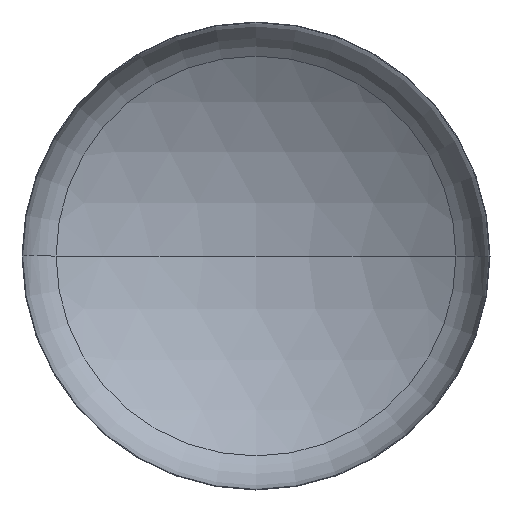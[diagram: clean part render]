
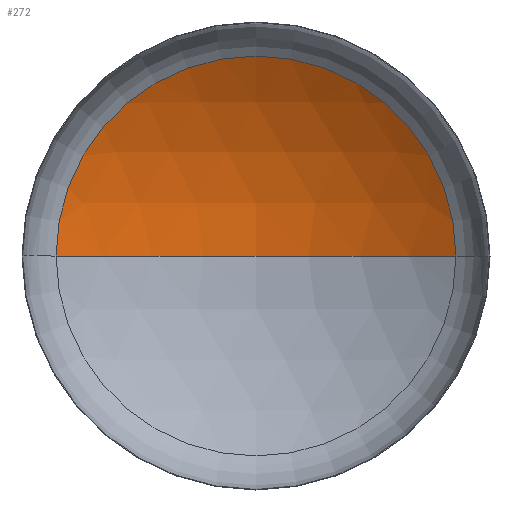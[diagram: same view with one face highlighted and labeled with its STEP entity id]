
A CAD part, front view. The second image highlights one B-rep face of the part: STEP entity #272.
In plain terms, the highlighted spherical face has radius 6400 mm.
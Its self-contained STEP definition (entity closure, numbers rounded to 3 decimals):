
#6 = ORIENTED_EDGE ( 'NONE', *, *, #390, .T. ) ;
#9 = EDGE_CURVE ( 'NONE', #331, #54, #66, .T. ) ;
#14 = ORIENTED_EDGE ( 'NONE', *, *, #325, .T. ) ;
#22 = DIRECTION ( 'NONE',  ( 0., 0., -1. ) ) ;
#37 = DIRECTION ( 'NONE',  ( -1., 0., 0. ) ) ;
#41 = EDGE_LOOP ( 'NONE', ( #55, #14, #6 ) ) ;
#54 = VERTEX_POINT ( 'NONE', #204 ) ;
#55 = ORIENTED_EDGE ( 'NONE', *, *, #9, .F. ) ;
#66 = CIRCLE ( 'NONE', #350, 6400. ) ;
#75 = CIRCLE ( 'NONE', #233, 3417.872 ) ;
#82 = AXIS2_PLACEMENT_3D ( 'NONE', #124, #366, #142 ) ;
#85 = DIRECTION ( 'NONE',  ( 0., -1., 0. ) ) ;
#97 = CIRCLE ( 'NONE', #82, 6400. ) ;
#117 = SPHERICAL_SURFACE ( 'NONE', #343, 6400. ) ;
#124 = CARTESIAN_POINT ( 'NONE',  ( 0., -4341.016, 0. ) ) ;
#125 = VERTEX_POINT ( 'NONE', #143 ) ;
#142 = DIRECTION ( 'NONE',  ( -1., 0., 0. ) ) ;
#143 = CARTESIAN_POINT ( 'NONE',  ( 3417.872, 1069.913, 0. ) ) ;
#184 = DIRECTION ( 'NONE',  ( 1., 0., 0. ) ) ;
#204 = CARTESIAN_POINT ( 'NONE',  ( -3417.872, 1069.913, 0. ) ) ;
#206 = FACE_OUTER_BOUND ( 'NONE', #41, .T. ) ;
#210 = CARTESIAN_POINT ( 'NONE',  ( 0., -4341.016, 0. ) ) ;
#222 = DIRECTION ( 'NONE',  ( 1., 0., 0. ) ) ;
#226 = DIRECTION ( 'NONE',  ( 0., 0., 1. ) ) ;
#233 = AXIS2_PLACEMENT_3D ( 'NONE', #267, #85, #184 ) ;
#267 = CARTESIAN_POINT ( 'NONE',  ( 0., 1069.913, 0. ) ) ;
#272 = ADVANCED_FACE ( 'NONE', ( #206 ), #117, .F. ) ;
#325 = EDGE_CURVE ( 'NONE', #331, #125, #97, .T. ) ;
#331 = VERTEX_POINT ( 'NONE', #411 ) ;
#343 = AXIS2_PLACEMENT_3D ( 'NONE', #210, #22, #37 ) ;
#350 = AXIS2_PLACEMENT_3D ( 'NONE', #410, #226, #222 ) ;
#366 = DIRECTION ( 'NONE',  ( 0., 0., -1. ) ) ;
#390 = EDGE_CURVE ( 'NONE', #125, #54, #75, .T. ) ;
#410 = CARTESIAN_POINT ( 'NONE',  ( 0., -4341.016, 0. ) ) ;
#411 = CARTESIAN_POINT ( 'NONE',  ( 0., 2058.984, 0. ) ) ;
